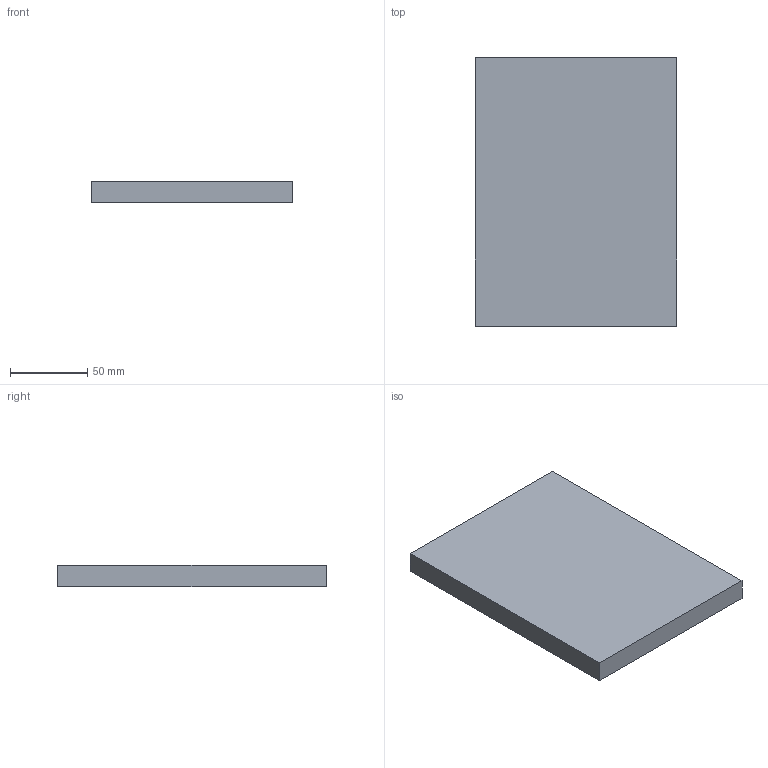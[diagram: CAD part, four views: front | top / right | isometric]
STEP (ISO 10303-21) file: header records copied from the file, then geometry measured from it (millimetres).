
FILE_DESCRIPTION(('Open CASCADE Model'),'2;1');
FILE_NAME('Open CASCADE Shape Model','2026-10-04T01:02:28',('Author'),( 'Open CASCADE'),'Open CASCADE STEP processor 8.0','Open CASCADE 8.0' ,'Unknown');
FILE_SCHEMA(('AUTOMOTIVE_DESIGN { 1 0 10303 214 1 1 1 1 }'));
Length unit declared in the file: millimetre
Products named in the file (1): Open CASCADE STEP translator 8.0 127
Bounding box: 130 x 173 x 14 mm (x, y, z)
Volume: 314860 mm3; surface area: 53464 mm2
Topology: 1 solids, 1 shells, 6 faces, 12 edges, 8 vertices
Faces by surface type: plane 6
Entity records: 322 total; most frequent: CARTESIAN_POINT 51, DIRECTION 50, LINE 36, VECTOR 36, ORIENTED_EDGE 24, PCURVE 24, DEFINITIONAL_REPRESENTATION 24, EDGE_CURVE 12
